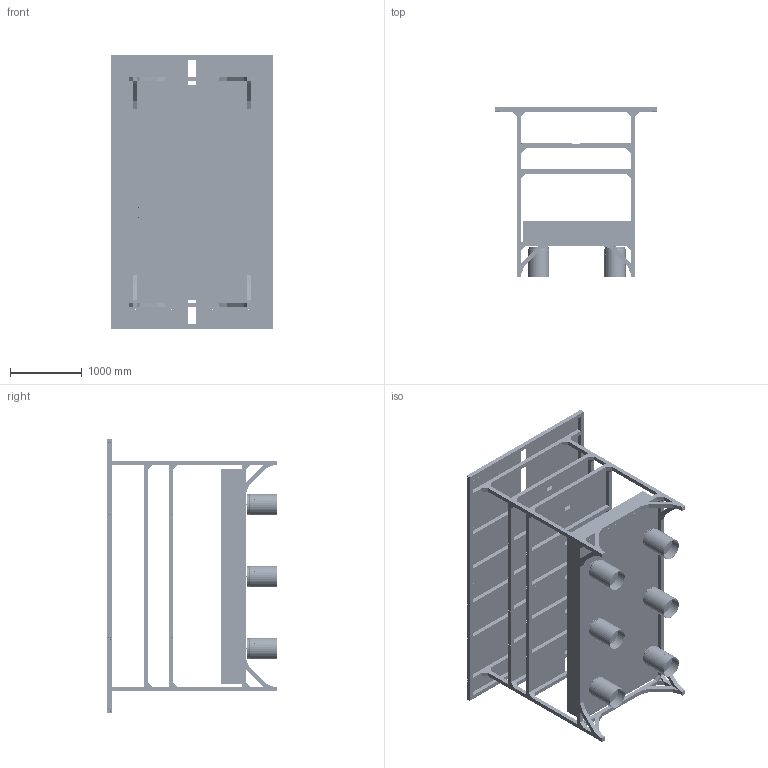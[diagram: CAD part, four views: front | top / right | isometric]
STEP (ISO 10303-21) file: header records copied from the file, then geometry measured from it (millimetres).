
FILE_DESCRIPTION (( 'STEP AP214' ), '1' );
FILE_NAME ('嫖悝す怢+臏倰第.STEP', '2026-10-27T17:26:43', ( 'China' ), ( 'P R C' ), 'SwSTEP 2.0', 'SolidWorks 2024', '' );
FILE_SCHEMA (( 'AUTOMOTIVE_DESIGN' ));
Length unit declared in the file: millimetre
Products named in the file (31): 装配体2^光学平台+铝型材; TTAS-2412-6 ____A ______.step; 1610x1070x3铝板; TTAS-3015_202412091608050845; 1层60x60x3080; 光学平台+铝型材; 固定杆; TTAS-2412-2-2 ____A ______________.step; TTAS-2412-3 ____A ____.step; TTAS-3015.step; 竖杆60x60x2300; TTAS-2412-2-1 ____A ________.step; 3层60x60x2120板支撑杆; 装配体1^光学平台+铝型材; 135度角码; TTAS-2412-5 ____A __________.step; TTAS-3015_202412091608050845_2.step; 580x710; 3层60x60x3080; 3层60x60x3230; 1层60x60x1520; 1280x710; TTAS-2412-4 ____A ______.step; 580x1070x3铝板; _____2.step; TTAS-2412-1-1-2 ____A ________.step; ____(2)_2.step; TTAS-2412-1-1-1 ____A ________.step; 3层60x60x1520板支撑杆; TTAS-2412-1-2 ____A ____.step; 直角固定零件
Assembly tree (111 placements, depth 6):
  光学平台+铝型材
    竖杆60x60x2300  x4
    1层60x60x1520  x2
    固定杆  x8
    直角固定零件  x22
    1层60x60x3080  x2
    135度角码  x16
    装配体1^光学平台+铝型材  x2
      3层60x60x3080
      1层60x60x1520
      直角固定零件
      1280x710
      3层60x60x1520板支撑杆
      580x710
    TTAS-3015_202412091608050845
      TTAS-3015_202412091608050845_2.step
        _____2.step  x6
          ____(2)_2.step
            TTAS-2412-1-1-1 ____A ________.step
            TTAS-2412-1-1-2 ____A ________.step
            TTAS-2412-1-2 ____A ____.step
            TTAS-2412-2-1 ____A ________.step
            TTAS-2412-2-2 ____A ______________.step
            TTAS-2412-3 ____A ____.step
            TTAS-2412-4 ____A ______.step
            TTAS-2412-5 ____A __________.step
            TTAS-2412-6 ____A ______.step
        TTAS-3015.step
    3层60x60x2120板支撑杆  x8
    3层60x60x3230  x2
    装配体2^光学平台+铝型材  x2
      1610x1070x3铝板
      580x1070x3铝板
Bounding box: 2240 x 2363 x 3800 mm (x, y, z)
Volume: 1705292139.4 mm3; surface area: 73635952.8 mm2
Topology: 167 solids, 167 shells, 5942 faces, 14522 edges, 9328 vertices
Faces by surface type: cylinder 3948, plane 1330, cone 616, bspline 36, torus 12
Entity records: 66844 total; most frequent: CARTESIAN_POINT 15449, DIRECTION 11748, ORIENTED_EDGE 9314, AXIS2_PLACEMENT_3D 5016, EDGE_CURVE 4657, VERTEX_POINT 3072, EDGE_LOOP 2977, CIRCLE 2844
